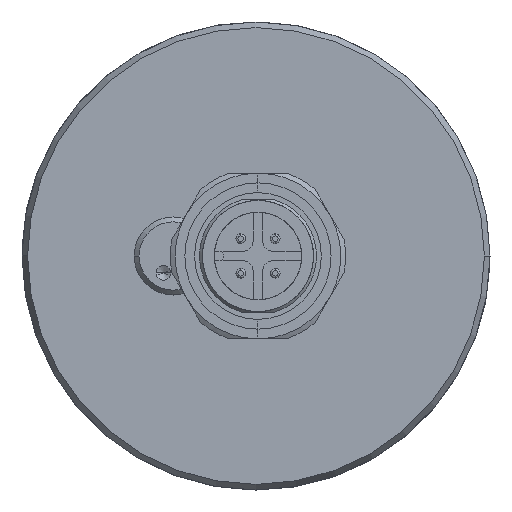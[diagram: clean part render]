
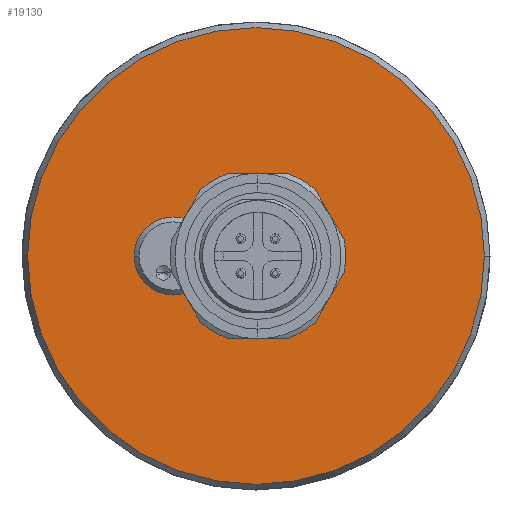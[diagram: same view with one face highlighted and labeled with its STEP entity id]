
A CAD part, left-side view. The second image highlights one B-rep face of the part: STEP entity #19130.
In plain terms, the highlighted planar face has unit normal (-1, 0, 0).
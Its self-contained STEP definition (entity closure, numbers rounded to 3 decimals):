
#6140=CARTESIAN_POINT('',(0.,0.,
0.));
#6141=DIRECTION('',(1.,0.,0.));
#6142=DIRECTION('',(0.,-1.,0.));
#6143=AXIS2_PLACEMENT_3D('',#6140,#6141,#6142);
#6145=CARTESIAN_POINT('',(0.,0.,
0.));
#6146=DIRECTION('',(1.,0.,0.));
#6147=DIRECTION('',(0.,0.,-1.));
#6148=AXIS2_PLACEMENT_3D('',#6145,#6146,#6147);
#6150=CARTESIAN_POINT('',(0.,0.,
0.));
#6151=DIRECTION('',(1.,0.,0.));
#6152=DIRECTION('',(0.,1.,0.));
#6153=AXIS2_PLACEMENT_3D('',#6150,#6151,#6152);
#6155=CARTESIAN_POINT('',(0.,0.,
0.));
#6156=DIRECTION('',(1.,0.,0.));
#6157=DIRECTION('',(0.,0.,1.));
#6158=AXIS2_PLACEMENT_3D('',#6155,#6156,#6157);
#6160=CARTESIAN_POINT('',(0.,8.5,0.));
#6161=DIRECTION('',(-1.,0.,0.));
#6162=DIRECTION('',(0.,-1.,0.));
#6163=AXIS2_PLACEMENT_3D('',#6160,#6161,#6162);
#6165=CARTESIAN_POINT('',(0.,8.5,0.));
#6166=DIRECTION('',(-1.,0.,0.));
#6167=DIRECTION('',(0.,1.,0.));
#6168=AXIS2_PLACEMENT_3D('',#6165,#6166,#6167);
#6170=CARTESIAN_POINT('',(0.,0.,0.));
#6171=DIRECTION('',(-1.,0.,0.));
#6172=DIRECTION('',(0.,0.,1.));
#6173=AXIS2_PLACEMENT_3D('',#6170,#6171,#6172);
#6175=CARTESIAN_POINT('',(0.,0.,0.));
#6176=DIRECTION('',(-1.,0.,0.));
#6177=DIRECTION('',(0.,0.,-1.));
#6178=AXIS2_PLACEMENT_3D('',#6175,#6176,#6177);
#8753=CARTESIAN_POINT('',(0.,0.,2.55));
#8754=CARTESIAN_POINT('',(0.,0.,-2.55));
#8755=VERTEX_POINT('',#8753);
#8756=VERTEX_POINT('',#8754);
#8757=CARTESIAN_POINT('',(0.,0.,
-23.422));
#8758=CARTESIAN_POINT('',(0.,23.422,
0.));
#8759=VERTEX_POINT('',#8757);
#8760=VERTEX_POINT('',#8758);
#8761=CARTESIAN_POINT('',(0.,-23.422,
0.));
#8762=VERTEX_POINT('',#8761);
#8763=CARTESIAN_POINT('',(0.,0.,
23.422));
#8764=VERTEX_POINT('',#8763);
#8765=CARTESIAN_POINT('',(0.,4.5,0.));
#8766=CARTESIAN_POINT('',(0.,12.5,0.));
#8767=VERTEX_POINT('',#8765);
#8768=VERTEX_POINT('',#8766);
#19104=CARTESIAN_POINT('',(0.,0.,0.));
#19105=DIRECTION('',(-1.,0.,0.));
#19106=DIRECTION('',(0.,1.,0.));
#19107=AXIS2_PLACEMENT_3D('',#19104,#19105,#19106);
#19108=PLANE('',#19107);
#19110=ORIENTED_EDGE('',*,*,#19109,.T.);
#19112=ORIENTED_EDGE('',*,*,#19111,.T.);
#19114=ORIENTED_EDGE('',*,*,#19113,.T.);
#19116=ORIENTED_EDGE('',*,*,#19115,.T.);
#19117=EDGE_LOOP('',(#19110,#19112,#19114,#19116));
#19118=FACE_OUTER_BOUND('',#19117,.F.);
#19120=ORIENTED_EDGE('',*,*,#19119,.T.);
#19122=ORIENTED_EDGE('',*,*,#19121,.T.);
#19123=EDGE_LOOP('',(#19120,#19122));
#19124=FACE_BOUND('',#19123,.F.);
#19125=ORIENTED_EDGE('',*,*,#19087,.T.);
#19127=ORIENTED_EDGE('',*,*,#19126,.T.);
#19128=EDGE_LOOP('',(#19125,#19127));
#19129=FACE_BOUND('',#19128,.F.);
#19130=ADVANCED_FACE('',(#19118,#19124,#19129),#19108,.T.);
#6144=CIRCLE('',#6143,23.422);
#6149=CIRCLE('',#6148,23.422);
#6154=CIRCLE('',#6153,23.422);
#6159=CIRCLE('',#6158,23.422);
#6164=CIRCLE('',#6163,4.);
#6169=CIRCLE('',#6168,4.);
#6174=CIRCLE('',#6173,2.55);
#6179=CIRCLE('',#6178,2.55);
#19087=EDGE_CURVE('',#8755,#8756,#6174,.T.);
#19109=EDGE_CURVE('',#8762,#8759,#6144,.T.);
#19111=EDGE_CURVE('',#8759,#8760,#6149,.T.);
#19113=EDGE_CURVE('',#8760,#8764,#6154,.T.);
#19115=EDGE_CURVE('',#8764,#8762,#6159,.T.);
#19119=EDGE_CURVE('',#8767,#8768,#6164,.T.);
#19121=EDGE_CURVE('',#8768,#8767,#6169,.T.);
#19126=EDGE_CURVE('',#8756,#8755,#6179,.T.);
